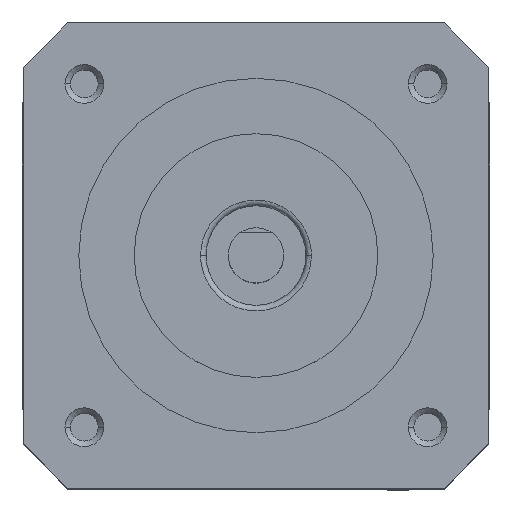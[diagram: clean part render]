
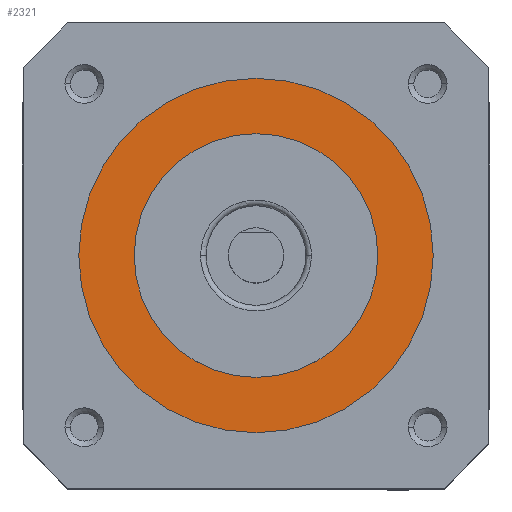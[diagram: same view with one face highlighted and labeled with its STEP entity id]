
A CAD part, top view. The second image highlights one B-rep face of the part: STEP entity #2321.
In plain terms, the highlighted planar face has unit normal (0, 0, 1).
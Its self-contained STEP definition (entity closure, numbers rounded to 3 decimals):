
#33 = DIRECTION ( 'NONE',  ( 1., 0., 0. ) ) ;
#61 = DIRECTION ( 'NONE',  ( 1., 0., 0. ) ) ;
#385 = CARTESIAN_POINT ( 'NONE',  ( 0., 0., 7.7 ) ) ;
#404 = DIRECTION ( 'NONE',  ( 1., 0., 0. ) ) ;
#469 = CARTESIAN_POINT ( 'NONE',  ( 0., 0., 7.7 ) ) ;
#663 = AXIS2_PLACEMENT_3D ( 'NONE', #1238, #2980, #1699 ) ;
#821 = PLANE ( 'NONE',  #5318 ) ;
#871 = VERTEX_POINT ( 'NONE', #4181 ) ;
#910 = CIRCLE ( 'NONE', #5309, 16. ) ;
#1238 = CARTESIAN_POINT ( 'NONE',  ( 0., 0., 7.7 ) ) ;
#1447 = ORIENTED_EDGE ( 'NONE', *, *, #4680, .T. ) ;
#1478 = EDGE_CURVE ( 'NONE', #5363, #2997, #2996, .T. ) ;
#1526 = CARTESIAN_POINT ( 'NONE',  ( 0., 0., 7.7 ) ) ;
#1699 = DIRECTION ( 'NONE',  ( -1., 0., 0. ) ) ;
#1836 = FACE_BOUND ( 'NONE', #4963, .T. ) ;
#2117 = DIRECTION ( 'NONE',  ( 0., 0., 1. ) ) ;
#2321 = ADVANCED_FACE ( 'NONE', ( #1836, #3179 ), #821, .T. ) ;
#2362 = CIRCLE ( 'NONE', #663, 11. ) ;
#2383 = DIRECTION ( 'NONE',  ( -1., 0., 0. ) ) ;
#2509 = CARTESIAN_POINT ( 'NONE',  ( -16., 0., 7.7 ) ) ;
#2980 = DIRECTION ( 'NONE',  ( 0., 0., -1. ) ) ;
#2996 = CIRCLE ( 'NONE', #3201, 16. ) ;
#2997 = VERTEX_POINT ( 'NONE', #4052 ) ;
#3179 = FACE_OUTER_BOUND ( 'NONE', #3485, .T. ) ;
#3201 = AXIS2_PLACEMENT_3D ( 'NONE', #469, #3460, #33 ) ;
#3460 = DIRECTION ( 'NONE',  ( 0., 0., 1. ) ) ;
#3485 = EDGE_LOOP ( 'NONE', ( #5072, #4896 ) ) ;
#4052 = CARTESIAN_POINT ( 'NONE',  ( 16., 0., 7.7 ) ) ;
#4181 = CARTESIAN_POINT ( 'NONE',  ( -11., 0., 7.7 ) ) ;
#4195 = EDGE_CURVE ( 'NONE', #2997, #5363, #910, .T. ) ;
#4216 = VERTEX_POINT ( 'NONE', #4735 ) ;
#4319 = ORIENTED_EDGE ( 'NONE', *, *, #4985, .T. ) ;
#4605 = AXIS2_PLACEMENT_3D ( 'NONE', #1526, #5378, #2383 ) ;
#4610 = DIRECTION ( 'NONE',  ( 0., 0., 1. ) ) ;
#4680 = EDGE_CURVE ( 'NONE', #871, #4216, #2362, .T. ) ;
#4735 = CARTESIAN_POINT ( 'NONE',  ( 11., 0., 7.7 ) ) ;
#4896 = ORIENTED_EDGE ( 'NONE', *, *, #1478, .T. ) ;
#4944 = CIRCLE ( 'NONE', #4605, 11. ) ;
#4963 = EDGE_LOOP ( 'NONE', ( #1447, #4319 ) ) ;
#4985 = EDGE_CURVE ( 'NONE', #4216, #871, #4944, .T. ) ;
#5072 = ORIENTED_EDGE ( 'NONE', *, *, #4195, .T. ) ;
#5309 = AXIS2_PLACEMENT_3D ( 'NONE', #385, #4610, #404 ) ;
#5318 = AXIS2_PLACEMENT_3D ( 'NONE', #5388, #2117, #61 ) ;
#5363 = VERTEX_POINT ( 'NONE', #2509 ) ;
#5378 = DIRECTION ( 'NONE',  ( 0., 0., -1. ) ) ;
#5388 = CARTESIAN_POINT ( 'NONE',  ( 0., 0., 7.7 ) ) ;
